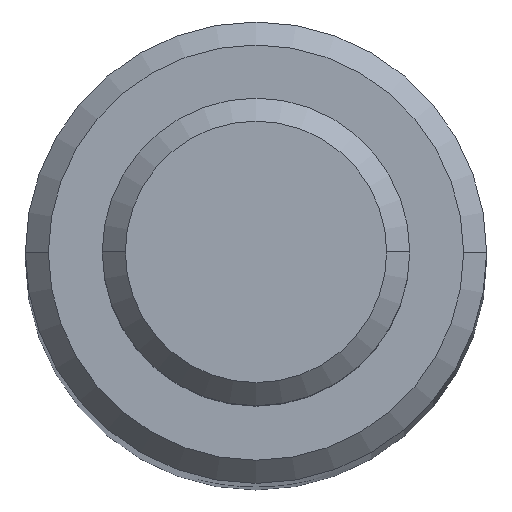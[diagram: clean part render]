
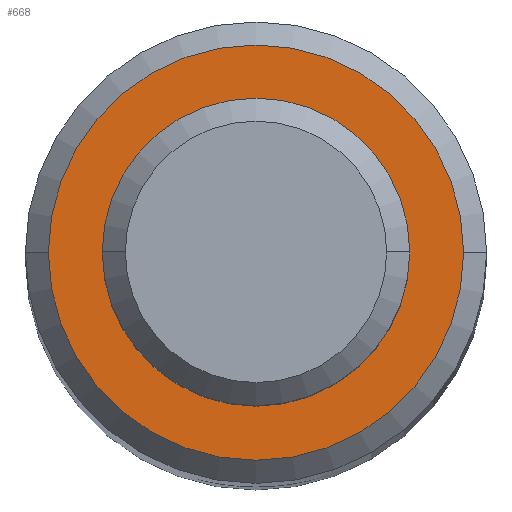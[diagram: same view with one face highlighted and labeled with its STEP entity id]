
A CAD part, top view. The second image highlights one B-rep face of the part: STEP entity #668.
In plain terms, the highlighted planar face has unit normal (0, 0, 1).
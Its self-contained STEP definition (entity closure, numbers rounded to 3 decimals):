
#17 = DIRECTION ( 'NONE',  ( 0., 0., 1. ) ) ;
#21 = EDGE_LOOP ( 'NONE', ( #322, #557 ) ) ;
#29 = DIRECTION ( 'NONE',  ( 1., 0., 0. ) ) ;
#41 = CARTESIAN_POINT ( 'NONE',  ( 0., 0., 50. ) ) ;
#70 = CIRCLE ( 'NONE', #314, 2.7 ) ;
#71 = CARTESIAN_POINT ( 'NONE',  ( 0., 0., 50. ) ) ;
#79 = CARTESIAN_POINT ( 'NONE',  ( -2.7, 0., 50. ) ) ;
#97 = DIRECTION ( 'NONE',  ( 1., 0., 0. ) ) ;
#104 = VERTEX_POINT ( 'NONE', #377 ) ;
#106 = CARTESIAN_POINT ( 'NONE',  ( 0., 0., 50. ) ) ;
#110 = AXIS2_PLACEMENT_3D ( 'NONE', #106, #474, #570 ) ;
#167 = FACE_OUTER_BOUND ( 'NONE', #444, .T. ) ;
#229 = AXIS2_PLACEMENT_3D ( 'NONE', #499, #396, #237 ) ;
#230 = CIRCLE ( 'NONE', #229, 1.65 ) ;
#237 = DIRECTION ( 'NONE',  ( 1., 0., 0. ) ) ;
#248 = CARTESIAN_POINT ( 'NONE',  ( 2.7, 0., 50. ) ) ;
#262 = VERTEX_POINT ( 'NONE', #248 ) ;
#278 = AXIS2_PLACEMENT_3D ( 'NONE', #41, #465, #97 ) ;
#314 = AXIS2_PLACEMENT_3D ( 'NONE', #71, #17, #554 ) ;
#322 = ORIENTED_EDGE ( 'NONE', *, *, #491, .F. ) ;
#353 = PLANE ( 'NONE',  #278 ) ;
#354 = EDGE_CURVE ( 'NONE', #433, #262, #535, .T. ) ;
#375 = CIRCLE ( 'NONE', #551, 1.65 ) ;
#377 = CARTESIAN_POINT ( 'NONE',  ( -1.65, 0., 50. ) ) ;
#378 = ORIENTED_EDGE ( 'NONE', *, *, #354, .T. ) ;
#396 = DIRECTION ( 'NONE',  ( 0., 0., 1. ) ) ;
#404 = DIRECTION ( 'NONE',  ( 0., 0., 1. ) ) ;
#433 = VERTEX_POINT ( 'NONE', #79 ) ;
#444 = EDGE_LOOP ( 'NONE', ( #378, #572 ) ) ;
#448 = EDGE_CURVE ( 'NONE', #262, #433, #70, .T. ) ;
#465 = DIRECTION ( 'NONE',  ( 0., 0., 1. ) ) ;
#474 = DIRECTION ( 'NONE',  ( 0., 0., 1. ) ) ;
#491 = EDGE_CURVE ( 'NONE', #104, #589, #230, .T. ) ;
#499 = CARTESIAN_POINT ( 'NONE',  ( 0., 0., 50. ) ) ;
#535 = CIRCLE ( 'NONE', #110, 2.7 ) ;
#551 = AXIS2_PLACEMENT_3D ( 'NONE', #575, #404, #29 ) ;
#554 = DIRECTION ( 'NONE',  ( 1., 0., 0. ) ) ;
#557 = ORIENTED_EDGE ( 'NONE', *, *, #651, .F. ) ;
#570 = DIRECTION ( 'NONE',  ( 1., 0., 0. ) ) ;
#572 = ORIENTED_EDGE ( 'NONE', *, *, #448, .T. ) ;
#575 = CARTESIAN_POINT ( 'NONE',  ( 0., 0., 50. ) ) ;
#589 = VERTEX_POINT ( 'NONE', #630 ) ;
#630 = CARTESIAN_POINT ( 'NONE',  ( 1.65, 0., 50. ) ) ;
#651 = EDGE_CURVE ( 'NONE', #589, #104, #375, .T. ) ;
#668 = ADVANCED_FACE ( 'NONE', ( #167, #672 ), #353, .T. ) ;
#672 = FACE_BOUND ( 'NONE', #21, .T. ) ;
